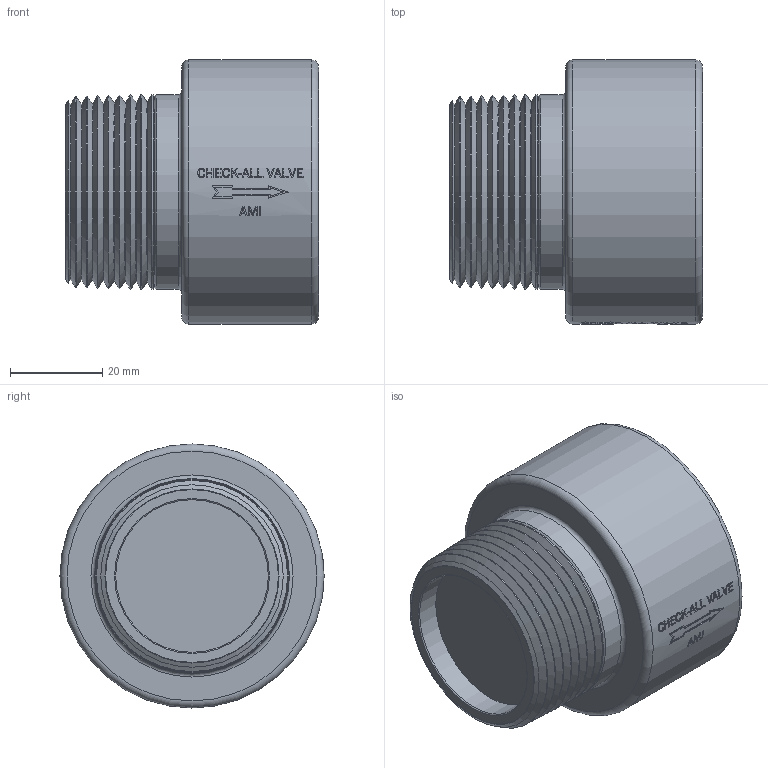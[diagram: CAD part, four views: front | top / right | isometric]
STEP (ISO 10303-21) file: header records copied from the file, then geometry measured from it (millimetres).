
FILE_DESCRIPTION(/* description */ ('Unknown'),/* implementation_level */ '2;1');
FILE_NAME(/* name */ 'AMIXXOR.500XX-WEB',/* time_stamp */ '2022-10-03T08:45:48-05:00',/* author */ ('Unknown'),/* organization */ ('Unknown'),/* preprocessor_version */ 'ST-DEVELOPER v18.102',/* originating_system */ 'Solid Edge',/* authorisation */ 'Unknown');
FILE_SCHEMA (('AUTOMOTIVE_DESIGN {1 0 10303 214 3 1 1}'));
Length unit declared in the file: inch
Products named in the file (1): AMIXXOR.500XX-WEB
Bounding box: 54.76 x 57.15 x 57.15 mm (x, y, z)
Volume: 86628.1 mm3; surface area: 20975 mm2
Topology: 1 solids, 1 shells, 280 faces, 696 edges, 446 vertices
Faces by surface type: plane 162, cone 65, cylinder 43, torus 6, bspline 4
Full cylindrical faces by diameter (mm): 22.606 x1, 27 x1, 33.02 x1, 38.102 x6, 42.164 x3, 57.15 x1
Entity records: 10529 total; most frequent: CARTESIAN_POINT 2629, ORIENTED_EDGE 1178, DIRECTION 1118, EDGE_CURVE 589, AXIS2_PLACEMENT_3D 452, VERTEX_POINT 423, EDGE_LOOP 392, FACE_BOUND 392
